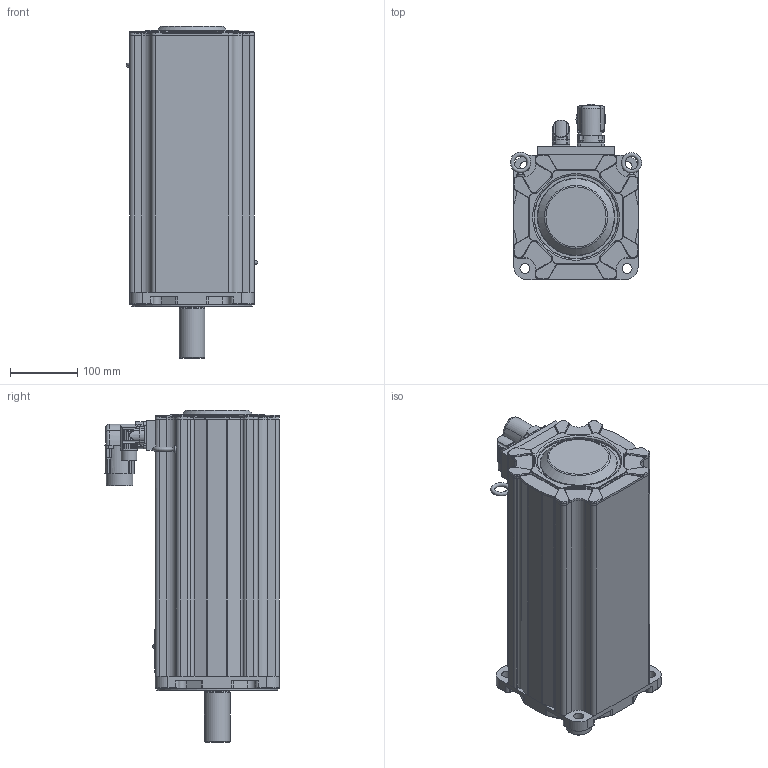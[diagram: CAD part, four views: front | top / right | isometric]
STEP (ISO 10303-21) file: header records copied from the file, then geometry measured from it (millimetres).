
FILE_DESCRIPTION((''),'2;1');
FILE_NAME('C:\CAD_work\Dummy_Modeling_Project_02-12-05\3D MODELS\MPP1908XXX_NPSB.stp','2005-12-20T17:36:17',('jevans'),(''),'Autodesk Inventor 10','Autodesk Inventor 10','');
FILE_SCHEMA(('AUTOMOTIVE_DESIGN { 1 0 10303 214 1 1 1 1 }'));
Length unit declared in the file: inch
Products named in the file (1): MPP190_MOTOR
Bounding box: 195.52 x 260.1 x 494.16 mm (x, y, z)
Volume: 12333799.6 mm3; surface area: 474489.5 mm2
Topology: 5 solids, 5 shells, 820 faces, 2086 edges, 1314 vertices
Faces by surface type: cylinder 369, plane 299, bspline 91, torus 46, cone 15
Full cylindrical faces by diameter (mm): 1.016 x17, 2 x2, 2.997 x2, 3.6 x4, 19.05 x1, 19.685 x1, 22.86 x1, 32.639 x1, 37.645 x1, 38.001 x1, 39.624 x1, 39.903 x1, 40.005 x1, 50.8 x1, 69.85 x1, 80.01 x1, 89.992 x1, 90 x1, 90.043 x1, 90.221 x1, 95.377 x1, 98.425 x1, 124.46 x1, 180.002 x1
Entity records: 28288 total; most frequent: CARTESIAN_POINT 9080, DIRECTION 4016, ORIENTED_EDGE 3946, EDGE_CURVE 1973, AXIS2_PLACEMENT_3D 1553, VERTEX_POINT 1286, EDGE_LOOP 959, VECTOR 910
